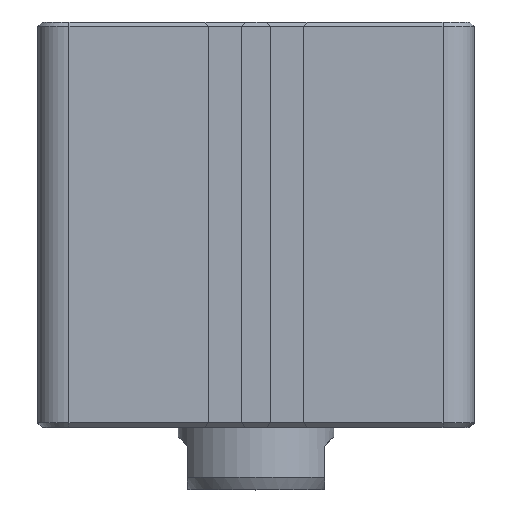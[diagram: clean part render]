
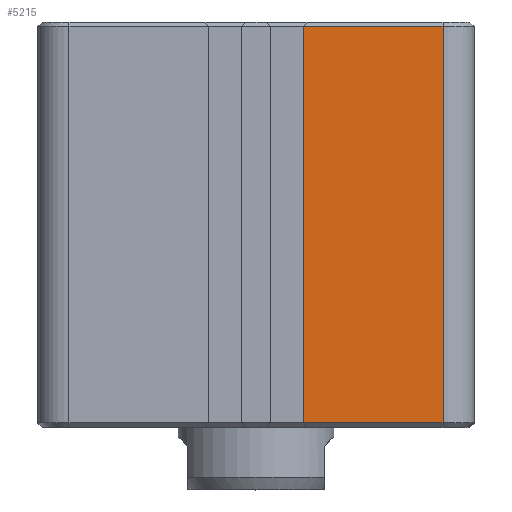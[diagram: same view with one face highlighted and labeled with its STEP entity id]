
A CAD part, top view. The second image highlights one B-rep face of the part: STEP entity #5215.
In plain terms, the highlighted planar face has unit normal (0, 0, 1).
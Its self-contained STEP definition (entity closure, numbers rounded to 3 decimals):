
#163=LINE('',#6976,#553);
#166=LINE('',#6982,#556);
#167=LINE('',#6985,#557);
#168=LINE('',#6986,#558);
#553=VECTOR('',#5938,1000.);
#556=VECTOR('',#5943,1000.);
#557=VECTOR('',#5944,1000.);
#558=VECTOR('',#5945,1000.);
#897=PLANE('',#5483);
#1202=ORIENTED_EDGE('',*,*,#2175,.F.);
#1203=ORIENTED_EDGE('',*,*,#2176,.T.);
#1204=ORIENTED_EDGE('',*,*,#2172,.T.);
#1205=ORIENTED_EDGE('',*,*,#2177,.T.);
#2172=EDGE_CURVE('',#2661,#2662,#163,.T.);
#2175=EDGE_CURVE('',#2663,#2664,#166,.T.);
#2176=EDGE_CURVE('',#2663,#2661,#167,.T.);
#2177=EDGE_CURVE('',#2662,#2664,#168,.T.);
#2661=VERTEX_POINT('',#6977);
#2662=VERTEX_POINT('',#6978);
#2663=VERTEX_POINT('',#6983);
#2664=VERTEX_POINT('',#6984);
#2995=EDGE_LOOP('',(#1202,#1203,#1204,#1205));
#3279=FACE_BOUND('',#2995,.T.);
#5215=ADVANCED_FACE('',(#3279),#897,.T.);
#5483=AXIS2_PLACEMENT_3D('',#6981,#5941,#5942);
#5938=DIRECTION('',(0.,-1.,0.));
#5941=DIRECTION('',(0.,0.,1.));
#5942=DIRECTION('',(1.,0.,0.));
#5943=DIRECTION('',(0.,-1.,0.));
#5944=DIRECTION('',(-1.,0.,0.));
#5945=DIRECTION('',(1.,0.,0.));
#6976=CARTESIAN_POINT('',(7.65,64.982,35.));
#6977=CARTESIAN_POINT('',(7.65,64.282,35.));
#6978=CARTESIAN_POINT('',(7.65,0.682,35.));
#6981=CARTESIAN_POINT('',(30.,64.982,35.));
#6982=CARTESIAN_POINT('',(30.,64.982,35.));
#6983=CARTESIAN_POINT('',(30.,64.282,35.));
#6984=CARTESIAN_POINT('',(30.,0.682,35.));
#6985=CARTESIAN_POINT('',(7.65,64.282,35.));
#6986=CARTESIAN_POINT('',(30.,0.682,35.));
